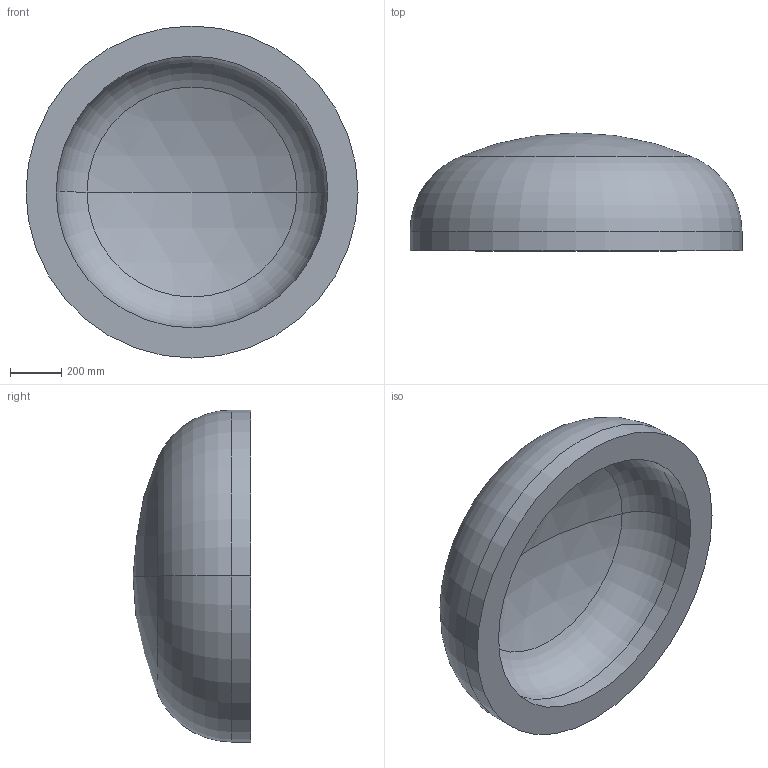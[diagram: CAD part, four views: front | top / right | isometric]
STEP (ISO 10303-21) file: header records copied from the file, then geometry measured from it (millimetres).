
FILE_DESCRIPTION (( 'STEP AP203' ), '1' );
FILE_NAME ('DIN 28013 Korbbogenform_-_Boden DIN 28013 - 1300 x 75 - I - s=118.step', '2016-07-01T10:04:37', ( '' ), ( '' ), 'SwSTEP 2.0', 'SolidWorks 2013', '' );
FILE_SCHEMA (( 'CONFIG_CONTROL_DESIGN' ));
Length unit declared in the file: millimetre
Products named in the file (1): DIN 28013 Korbbogenform_-_Boden DIN 28013 - 1300 x 75 - I - s=118
Bounding box: 1300 x 461.39 x 1300 mm (x, y, z)
Volume: 226558562.1 mm3; surface area: 4307314.1 mm2
Topology: 1 solids, 1 shells, 13 faces, 24 edges, 14 vertices
Faces by surface type: torus 4, cylinder 4, sphere 4, plane 1
Entity records: 407 total; most frequent: DIRECTION 72, CARTESIAN_POINT 52, ORIENTED_EDGE 48, AXIS2_PLACEMENT_3D 34, EDGE_CURVE 24, CIRCLE 20, VERTEX_POINT 14, EDGE_LOOP 14
